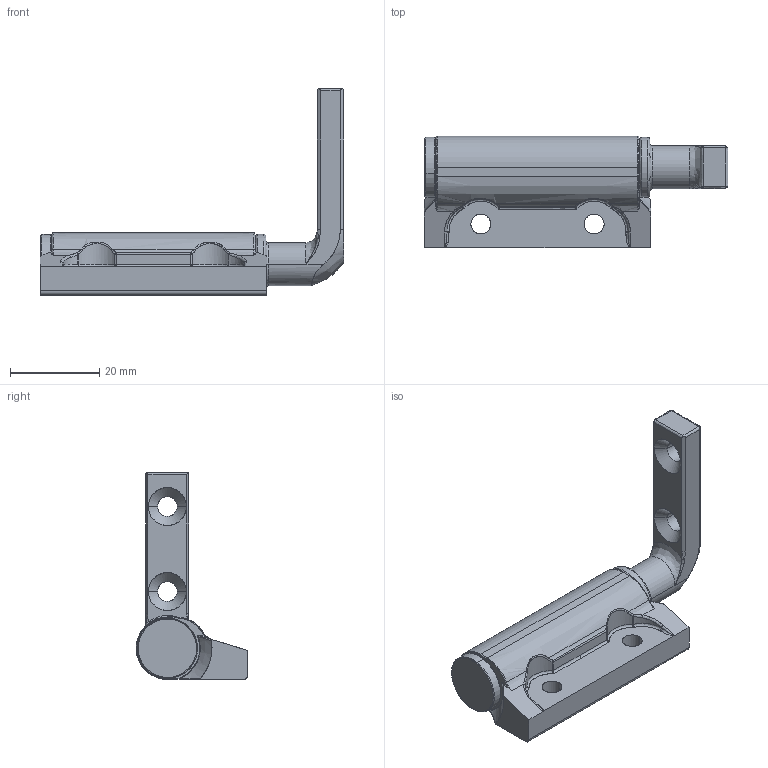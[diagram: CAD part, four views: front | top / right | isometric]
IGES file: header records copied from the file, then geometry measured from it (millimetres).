
Start section: SolidWorks IGES file using analytic representation for surfaces
Global section: file name: G:\RELEASED\FINALS\11-XXX PHK Hinge\PHK 90 Right.IGS; native system: SolidWorks 2016; preprocessor: SolidWorks 2016; author: hmanderson; date: 160323.092401; units: inch
Bounding box: 68.07 x 25.03 x 46.37 mm (x, y, z)
Surface area: 9411.5 mm2 (no closed solid volume)
Topology: 0 solids, 0 shells, 610 faces, 5259 edges, 5237 vertices
Faces by surface type: bspline 385, revolution 225
